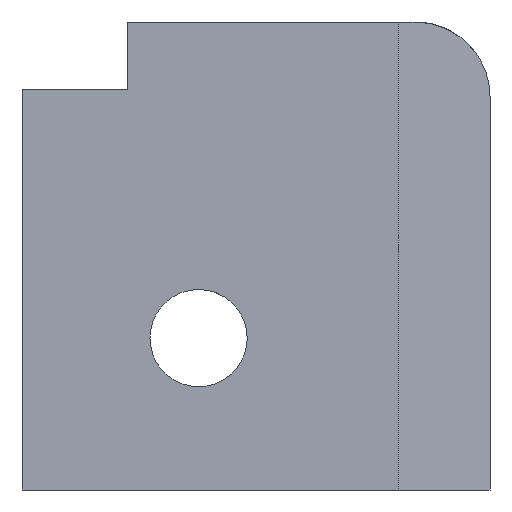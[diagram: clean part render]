
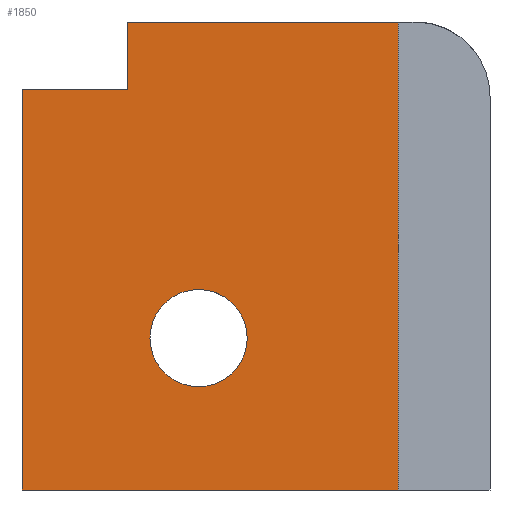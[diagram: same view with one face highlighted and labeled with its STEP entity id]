
A CAD part, left-side view. The second image highlights one B-rep face of the part: STEP entity #1850.
In plain terms, the highlighted planar face has unit normal (-1, 0, 0).
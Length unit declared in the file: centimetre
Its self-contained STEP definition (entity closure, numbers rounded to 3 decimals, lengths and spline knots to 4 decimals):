
#107 = CARTESIAN_POINT ( 'NONE',  ( 0., 195.808, 0. ) ) ;
#115 = VERTEX_POINT ( 'NONE', #713 ) ;
#139 = LINE ( 'NONE', #1845, #2050 ) ;
#146 = DIRECTION ( 'NONE',  ( 0., -1., 0. ) ) ;
#149 = CARTESIAN_POINT ( 'NONE',  ( 0., 1000., 0. ) ) ;
#184 = FACE_OUTER_BOUND ( 'NONE', #2147, .T. ) ;
#224 = DIRECTION ( 'NONE',  ( 0., 0., -1. ) ) ;
#245 = CIRCLE ( 'NONE', #1028, 103.8699 ) ;
#248 = CARTESIAN_POINT ( 'NONE',  ( 0., 195.808, 1000. ) ) ;
#249 = LINE ( 'NONE', #1614, #1560 ) ;
#279 = ORIENTED_EDGE ( 'NONE', *, *, #1837, .T. ) ;
#295 = ORIENTED_EDGE ( 'NONE', *, *, #774, .F. ) ;
#300 = EDGE_CURVE ( 'NONE', #1130, #1346, #1600, .T. ) ;
#321 = VECTOR ( 'NONE', #829, 100. ) ;
#346 = LINE ( 'NONE', #874, #2201 ) ;
#379 = ORIENTED_EDGE ( 'NONE', *, *, #1070, .T. ) ;
#440 = EDGE_LOOP ( 'NONE', ( #1691, #844 ) ) ;
#471 = ORIENTED_EDGE ( 'NONE', *, *, #524, .T. ) ;
#488 = CARTESIAN_POINT ( 'NONE',  ( 0., 1000., 1000. ) ) ;
#503 = CARTESIAN_POINT ( 'NONE',  ( 0., 622.6401, 428.384 ) ) ;
#524 = EDGE_CURVE ( 'NONE', #1380, #1226, #249, .T. ) ;
#593 = CARTESIAN_POINT ( 'NONE',  ( 0., 195.808, 1000. ) ) ;
#613 = DIRECTION ( 'NONE',  ( 1., 0., 0. ) ) ;
#682 = ORIENTED_EDGE ( 'NONE', *, *, #300, .T. ) ;
#689 = DIRECTION ( 'NONE',  ( 0., 0., -1. ) ) ;
#713 = CARTESIAN_POINT ( 'NONE',  ( 0., 775.5119, 1000. ) ) ;
#748 = CARTESIAN_POINT ( 'NONE',  ( 0., 622.6401, 324.5141 ) ) ;
#758 = EDGE_CURVE ( 'NONE', #1304, #827, #245, .T. ) ;
#774 = EDGE_CURVE ( 'NONE', #115, #1346, #139, .T. ) ;
#786 = VECTOR ( 'NONE', #1173, 100. ) ;
#827 = VERTEX_POINT ( 'NONE', #503 ) ;
#829 = DIRECTION ( 'NONE',  ( 0., -1., 0. ) ) ;
#844 = ORIENTED_EDGE ( 'NONE', *, *, #871, .T. ) ;
#871 = EDGE_CURVE ( 'NONE', #827, #1304, #1778, .T. ) ;
#874 = CARTESIAN_POINT ( 'NONE',  ( 0., 775.5119, 856.3246 ) ) ;
#957 = CARTESIAN_POINT ( 'NONE',  ( 0., 1000., 856.3246 ) ) ;
#994 = DIRECTION ( 'NONE',  ( 0., 0., -1. ) ) ;
#996 = AXIS2_PLACEMENT_3D ( 'NONE', #748, #613, #1758 ) ;
#1008 = DIRECTION ( 'NONE',  ( 1., 0., 0. ) ) ;
#1028 = AXIS2_PLACEMENT_3D ( 'NONE', #1939, #1427, #994 ) ;
#1058 = CARTESIAN_POINT ( 'NONE',  ( 0., 775.5119, 856.3246 ) ) ;
#1070 = EDGE_CURVE ( 'NONE', #115, #1717, #2154, .T. ) ;
#1130 = VERTEX_POINT ( 'NONE', #107 ) ;
#1173 = DIRECTION ( 'NONE',  ( 0., 0., -1. ) ) ;
#1226 = VERTEX_POINT ( 'NONE', #1715 ) ;
#1304 = VERTEX_POINT ( 'NONE', #1966 ) ;
#1346 = VERTEX_POINT ( 'NONE', #593 ) ;
#1348 = PLANE ( 'NONE',  #1360 ) ;
#1360 = AXIS2_PLACEMENT_3D ( 'NONE', #488, #1008, #689 ) ;
#1377 = LINE ( 'NONE', #149, #321 ) ;
#1380 = VERTEX_POINT ( 'NONE', #957 ) ;
#1381 = DIRECTION ( 'NONE',  ( 0., 1., 0. ) ) ;
#1414 = DIRECTION ( 'NONE',  ( 0., 0., 1. ) ) ;
#1427 = DIRECTION ( 'NONE',  ( 1., 0., 0. ) ) ;
#1552 = FACE_BOUND ( 'NONE', #440, .T. ) ;
#1560 = VECTOR ( 'NONE', #224, 100. ) ;
#1600 = LINE ( 'NONE', #248, #1808 ) ;
#1614 = CARTESIAN_POINT ( 'NONE',  ( 0., 1000., 1000. ) ) ;
#1691 = ORIENTED_EDGE ( 'NONE', *, *, #758, .T. ) ;
#1715 = CARTESIAN_POINT ( 'NONE',  ( 0., 1000., 0. ) ) ;
#1717 = VERTEX_POINT ( 'NONE', #1058 ) ;
#1758 = DIRECTION ( 'NONE',  ( 0., 0., -1. ) ) ;
#1778 = CIRCLE ( 'NONE', #996, 103.8699 ) ;
#1808 = VECTOR ( 'NONE', #1414, 100. ) ;
#1837 = EDGE_CURVE ( 'NONE', #1226, #1130, #1377, .T. ) ;
#1845 = CARTESIAN_POINT ( 'NONE',  ( 0., 1000., 1000. ) ) ;
#1850 = ADVANCED_FACE ( 'NONE', ( #1552, #184 ), #1348, .F. ) ;
#1939 = CARTESIAN_POINT ( 'NONE',  ( 0., 622.6401, 324.5141 ) ) ;
#1949 = EDGE_CURVE ( 'NONE', #1717, #1380, #346, .T. ) ;
#1966 = CARTESIAN_POINT ( 'NONE',  ( 0., 622.6401, 220.6443 ) ) ;
#2013 = ORIENTED_EDGE ( 'NONE', *, *, #1949, .T. ) ;
#2050 = VECTOR ( 'NONE', #146, 100. ) ;
#2147 = EDGE_LOOP ( 'NONE', ( #379, #2013, #471, #279, #682, #295 ) ) ;
#2154 = LINE ( 'NONE', #2166, #786 ) ;
#2166 = CARTESIAN_POINT ( 'NONE',  ( 0., 775.5119, 856.3246 ) ) ;
#2201 = VECTOR ( 'NONE', #1381, 100. ) ;
